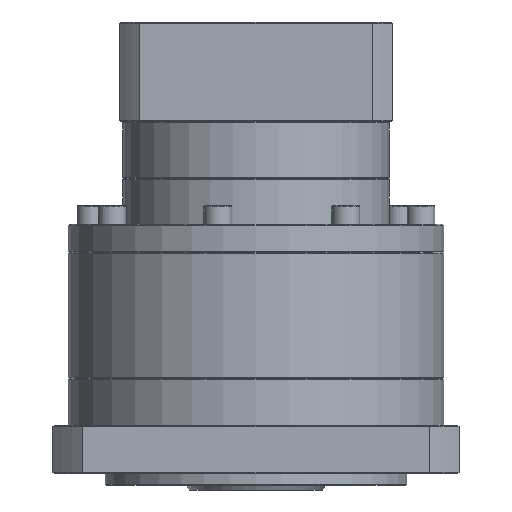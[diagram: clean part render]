
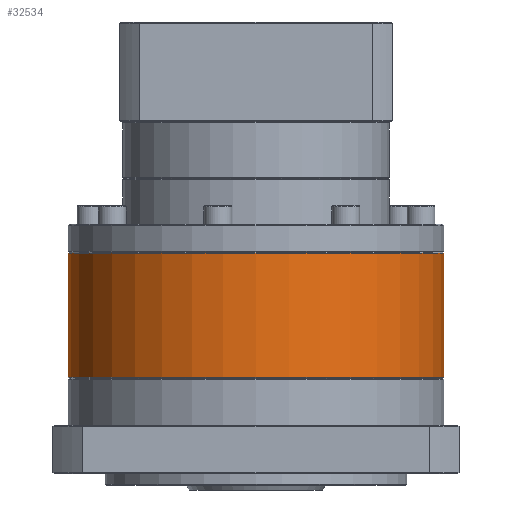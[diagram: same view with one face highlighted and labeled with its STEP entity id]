
A CAD part, front view. The second image highlights one B-rep face of the part: STEP entity #32534.
In plain terms, the highlighted cylindrical face has radius 81 mm (diameter 162 mm), a partial arc.
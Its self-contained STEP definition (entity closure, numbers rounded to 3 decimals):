
#3478 = CIRCLE ( 'NONE', #8364, 81. ) ;
#6821 = EDGE_CURVE ( 'NONE', #56011, #112649, #90128, .T. ) ;
#8364 = AXIS2_PLACEMENT_3D ( 'NONE', #60999, #18647, #20031 ) ;
#11547 = VERTEX_POINT ( 'NONE', #123175 ) ;
#14594 = LINE ( 'NONE', #83655, #95215 ) ;
#15263 = AXIS2_PLACEMENT_3D ( 'NONE', #35420, #26653, #110351 ) ;
#18647 = DIRECTION ( 'NONE',  ( 0., 0., -1. ) ) ;
#20031 = DIRECTION ( 'NONE',  ( -1., 0., 0. ) ) ;
#21608 = VERTEX_POINT ( 'NONE', #111269 ) ;
#22332 = EDGE_LOOP ( 'NONE', ( #49851, #132466, #55624, #128436, #24331 ) ) ;
#24331 = ORIENTED_EDGE ( 'NONE', *, *, #74944, .F. ) ;
#26653 = DIRECTION ( 'NONE',  ( 0., 0., -1. ) ) ;
#30634 = DIRECTION ( 'NONE',  ( -1., 0., 0. ) ) ;
#32534 = ADVANCED_FACE ( 'NONE', ( #104432 ), #76503, .T. ) ;
#35420 = CARTESIAN_POINT ( 'NONE',  ( -142.242, 105.463, -128.864 ) ) ;
#38710 = CARTESIAN_POINT ( 'NONE',  ( -223.242, 105.463, -75.364 ) ) ;
#49851 = ORIENTED_EDGE ( 'NONE', *, *, #129757, .F. ) ;
#50427 = LINE ( 'NONE', #126624, #99706 ) ;
#54682 = CIRCLE ( 'NONE', #15263, 81. ) ;
#55624 = ORIENTED_EDGE ( 'NONE', *, *, #57316, .T. ) ;
#56011 = VERTEX_POINT ( 'NONE', #133604 ) ;
#57316 = EDGE_CURVE ( 'NONE', #112649, #79190, #3478, .T. ) ;
#60641 = DIRECTION ( 'NONE',  ( 0., 0., -1. ) ) ;
#60999 = CARTESIAN_POINT ( 'NONE',  ( -142.242, 105.463, -75.364 ) ) ;
#72969 = CARTESIAN_POINT ( 'NONE',  ( -142.242, 105.463, -74.864 ) ) ;
#74658 = DIRECTION ( 'NONE',  ( 0., 0., -1. ) ) ;
#74944 = EDGE_CURVE ( 'NONE', #21608, #11547, #54682, .T. ) ;
#76503 = CYLINDRICAL_SURFACE ( 'NONE', #131117, 81. ) ;
#79190 = VERTEX_POINT ( 'NONE', #38710 ) ;
#83655 = CARTESIAN_POINT ( 'NONE',  ( -223.242, 105.463, -74.864 ) ) ;
#90128 = CIRCLE ( 'NONE', #91450, 81. ) ;
#90544 = CARTESIAN_POINT ( 'NONE',  ( -142.242, 105.463, -75.364 ) ) ;
#91450 = AXIS2_PLACEMENT_3D ( 'NONE', #90544, #60641, #111705 ) ;
#94036 = EDGE_CURVE ( 'NONE', #79190, #11547, #14594, .T. ) ;
#94659 = CARTESIAN_POINT ( 'NONE',  ( -142.242, 24.463, -75.364 ) ) ;
#95215 = VECTOR ( 'NONE', #114461, 1000. ) ;
#99706 = VECTOR ( 'NONE', #74658, 1000. ) ;
#104432 = FACE_OUTER_BOUND ( 'NONE', #22332, .T. ) ;
#110351 = DIRECTION ( 'NONE',  ( 1., 0., 0. ) ) ;
#111269 = CARTESIAN_POINT ( 'NONE',  ( -61.242, 105.463, -128.864 ) ) ;
#111705 = DIRECTION ( 'NONE',  ( -1., 0., 0. ) ) ;
#112649 = VERTEX_POINT ( 'NONE', #94659 ) ;
#114362 = DIRECTION ( 'NONE',  ( 0., 0., -1. ) ) ;
#114461 = DIRECTION ( 'NONE',  ( 0., 0., -1. ) ) ;
#123175 = CARTESIAN_POINT ( 'NONE',  ( -223.242, 105.463, -128.864 ) ) ;
#126624 = CARTESIAN_POINT ( 'NONE',  ( -61.242, 105.463, -74.864 ) ) ;
#128436 = ORIENTED_EDGE ( 'NONE', *, *, #94036, .T. ) ;
#129757 = EDGE_CURVE ( 'NONE', #56011, #21608, #50427, .T. ) ;
#131117 = AXIS2_PLACEMENT_3D ( 'NONE', #72969, #114362, #30634 ) ;
#132466 = ORIENTED_EDGE ( 'NONE', *, *, #6821, .T. ) ;
#133604 = CARTESIAN_POINT ( 'NONE',  ( -61.242, 105.463, -75.364 ) ) ;
